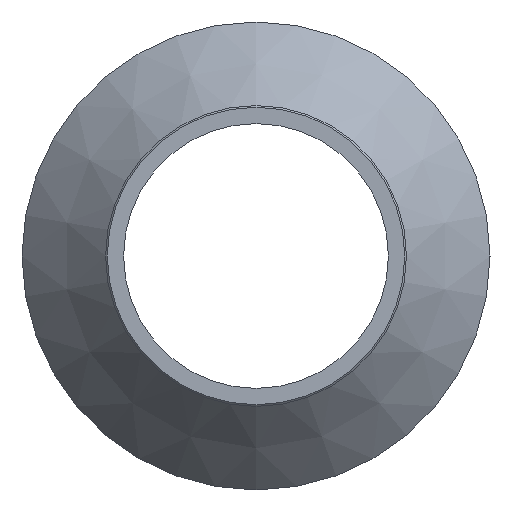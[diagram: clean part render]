
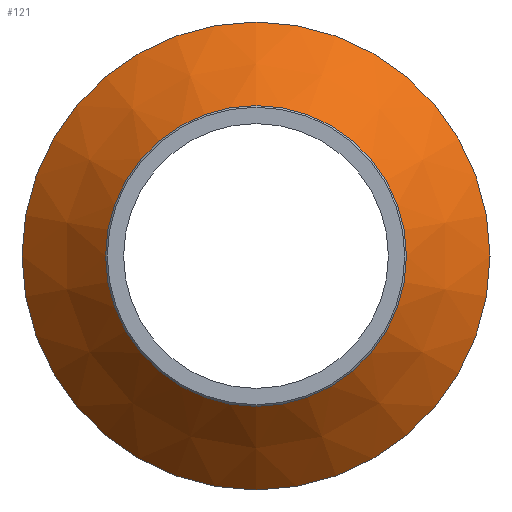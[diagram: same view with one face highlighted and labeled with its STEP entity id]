
A CAD part, left-side view. The second image highlights one B-rep face of the part: STEP entity #121.
In plain terms, the highlighted conical face has half-angle 42.797 degrees and reference radius 70 mm.
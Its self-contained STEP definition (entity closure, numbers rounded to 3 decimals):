
#22=CONICAL_SURFACE('',#146,70.,0.747);
#28=ORIENTED_EDGE('',*,*,#48,.F.);
#29=ORIENTED_EDGE('',*,*,#47,.T.);
#47=EDGE_CURVE('',#57,#57,#67,.T.);
#48=EDGE_CURVE('',#58,#58,#68,.T.);
#57=VERTEX_POINT('',#210);
#58=VERTEX_POINT('',#213);
#67=CIRCLE('',#145,70.);
#68=CIRCLE('',#147,45.);
#78=EDGE_LOOP('',(#28));
#79=EDGE_LOOP('',(#29));
#98=FACE_BOUND('',#78,.T.);
#99=FACE_BOUND('',#79,.T.);
#121=ADVANCED_FACE('',(#98,#99),#22,.T.);
#145=AXIS2_PLACEMENT_3D('',#209,#169,#170);
#146=AXIS2_PLACEMENT_3D('',#211,#171,#172);
#147=AXIS2_PLACEMENT_3D('',#212,#173,#174);
#169=DIRECTION('',(-1.,0.,0.));
#170=DIRECTION('',(0.,0.,1.));
#171=DIRECTION('',(1.,0.,0.));
#172=DIRECTION('',(0.,0.,-1.));
#173=DIRECTION('',(-1.,0.,0.));
#174=DIRECTION('',(0.,0.,1.));
#209=CARTESIAN_POINT('',(13.5,0.,0.));
#210=CARTESIAN_POINT('',(13.5,0.,70.));
#211=CARTESIAN_POINT('',(13.5,0.,0.));
#212=CARTESIAN_POINT('',(-13.5,0.,0.));
#213=CARTESIAN_POINT('',(-13.5,0.,45.));
